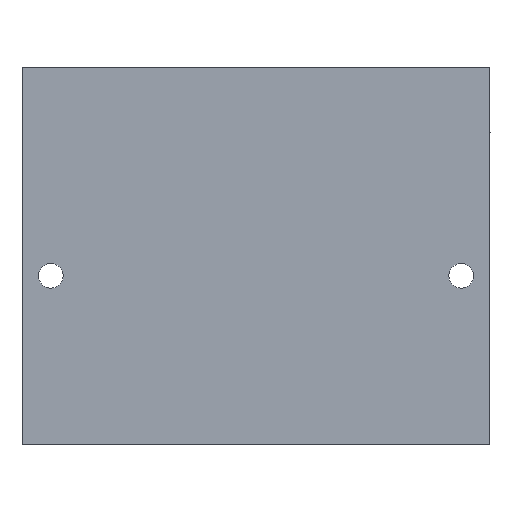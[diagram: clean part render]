
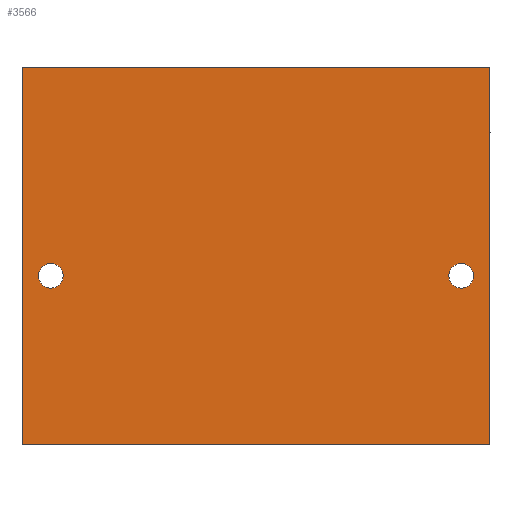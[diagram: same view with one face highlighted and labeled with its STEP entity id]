
A CAD part, front view. The second image highlights one B-rep face of the part: STEP entity #3566.
In plain terms, the highlighted planar face has unit normal (0, -1, 0).
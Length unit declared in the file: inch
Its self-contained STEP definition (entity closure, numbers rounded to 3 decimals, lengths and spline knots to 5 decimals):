
#192 = FACE_BOUND ( 'NONE', #6255, .T. ) ;
#200 = EDGE_CURVE ( 'NONE', #10922, #12041, #6676, .T. ) ;
#289 = EDGE_CURVE ( 'NONE', #4979, #12084, #4509, .T. ) ;
#622 = AXIS2_PLACEMENT_3D ( 'NONE', #7558, #8003, #7991 ) ;
#1094 = VECTOR ( 'NONE', #12341, 39.37008 ) ;
#1285 = CARTESIAN_POINT ( 'NONE',  ( 0.4, 0., -3.072 ) ) ;
#1758 = EDGE_CURVE ( 'NONE', #5048, #8320, #11879, .T. ) ;
#1815 = EDGE_CURVE ( 'NONE', #5163, #3727, #11255, .T. ) ;
#1827 = EDGE_CURVE ( 'NONE', #12084, #4979, #3636, .T. ) ;
#1829 = EDGE_CURVE ( 'NONE', #12041, #10922, #10646, .T. ) ;
#1846 = EDGE_CURVE ( 'NONE', #8320, #3727, #3305, .T. ) ;
#1892 = EDGE_CURVE ( 'NONE', #5048, #5163, #12308, .T. ) ;
#2300 = CARTESIAN_POINT ( 'NONE',  ( 0., 0., 0. ) ) ;
#2854 = AXIS2_PLACEMENT_3D ( 'NONE', #3313, #3308, #3254 ) ;
#2985 = VECTOR ( 'NONE', #8286, 39.37008 ) ;
#3166 = CARTESIAN_POINT ( 'NONE',  ( 6.5, 0., 0. ) ) ;
#3254 = DIRECTION ( 'NONE',  ( 0., 0., 1. ) ) ;
#3305 = LINE ( 'NONE', #7964, #2985 ) ;
#3308 = DIRECTION ( 'NONE',  ( 0., 1., 0. ) ) ;
#3313 = CARTESIAN_POINT ( 'NONE',  ( 6.1, 0., -2.9 ) ) ;
#3414 = FACE_BOUND ( 'NONE', #8503, .T. ) ;
#3566 = ADVANCED_FACE ( 'NONE', ( #192, #3414, #11050 ), #11591, .F. ) ;
#3636 = CIRCLE ( 'NONE', #622, 0.172 ) ;
#3673 = CARTESIAN_POINT ( 'NONE',  ( 6.1, 0., -3.072 ) ) ;
#3727 = VERTEX_POINT ( 'NONE', #9619 ) ;
#4112 = CARTESIAN_POINT ( 'NONE',  ( 6.1, 0., -2.728 ) ) ;
#4509 = CIRCLE ( 'NONE', #2854, 0.172 ) ;
#4666 = CARTESIAN_POINT ( 'NONE',  ( 6.5, 0., 0. ) ) ;
#4723 = DIRECTION ( 'NONE',  ( -1., 0., 0. ) ) ;
#4979 = VERTEX_POINT ( 'NONE', #3673 ) ;
#5048 = VERTEX_POINT ( 'NONE', #3166 ) ;
#5069 = AXIS2_PLACEMENT_3D ( 'NONE', #5413, #5399, #5386 ) ;
#5163 = VERTEX_POINT ( 'NONE', #2300 ) ;
#5386 = DIRECTION ( 'NONE',  ( 0., 0., 1. ) ) ;
#5399 = DIRECTION ( 'NONE',  ( 0., 1., 0. ) ) ;
#5413 = CARTESIAN_POINT ( 'NONE',  ( 0.4, 0., -2.9 ) ) ;
#6001 = VECTOR ( 'NONE', #8195, 39.37008 ) ;
#6255 = EDGE_LOOP ( 'NONE', ( #10433, #10588 ) ) ;
#6676 = CIRCLE ( 'NONE', #5069, 0.172 ) ;
#7063 = VECTOR ( 'NONE', #4723, 39.37008 ) ;
#7558 = CARTESIAN_POINT ( 'NONE',  ( 6.1, 0., -2.9 ) ) ;
#7720 = DIRECTION ( 'NONE',  ( 0., 0., 1. ) ) ;
#7836 = DIRECTION ( 'NONE',  ( 0., 1., 0. ) ) ;
#7893 = CARTESIAN_POINT ( 'NONE',  ( 0.4, 0., -2.9 ) ) ;
#7964 = CARTESIAN_POINT ( 'NONE',  ( 6.5, 0., -5.25 ) ) ;
#7991 = DIRECTION ( 'NONE',  ( 0., 0., 1. ) ) ;
#8003 = DIRECTION ( 'NONE',  ( 0., 1., 0. ) ) ;
#8195 = DIRECTION ( 'NONE',  ( 0., 0., -1. ) ) ;
#8274 = CARTESIAN_POINT ( 'NONE',  ( 0., 0., 0. ) ) ;
#8286 = DIRECTION ( 'NONE',  ( -1., 0., 0. ) ) ;
#8320 = VERTEX_POINT ( 'NONE', #11503 ) ;
#8503 = EDGE_LOOP ( 'NONE', ( #10716, #10891 ) ) ;
#9619 = CARTESIAN_POINT ( 'NONE',  ( 0., 0., -5.25 ) ) ;
#10073 = AXIS2_PLACEMENT_3D ( 'NONE', #11758, #11574, #11544 ) ;
#10433 = ORIENTED_EDGE ( 'NONE', *, *, #1829, .T. ) ;
#10588 = ORIENTED_EDGE ( 'NONE', *, *, #200, .T. ) ;
#10646 = CIRCLE ( 'NONE', #11911, 0.172 ) ;
#10716 = ORIENTED_EDGE ( 'NONE', *, *, #1827, .T. ) ;
#10891 = ORIENTED_EDGE ( 'NONE', *, *, #289, .T. ) ;
#10902 = ORIENTED_EDGE ( 'NONE', *, *, #1815, .T. ) ;
#10922 = VERTEX_POINT ( 'NONE', #1285 ) ;
#11050 = FACE_OUTER_BOUND ( 'NONE', #11201, .T. ) ;
#11176 = ORIENTED_EDGE ( 'NONE', *, *, #1846, .F. ) ;
#11186 = ORIENTED_EDGE ( 'NONE', *, *, #1758, .F. ) ;
#11201 = EDGE_LOOP ( 'NONE', ( #10902, #11176, #11186, #11497 ) ) ;
#11255 = LINE ( 'NONE', #8274, #6001 ) ;
#11497 = ORIENTED_EDGE ( 'NONE', *, *, #1892, .T. ) ;
#11503 = CARTESIAN_POINT ( 'NONE',  ( 6.5, 0., -5.25 ) ) ;
#11544 = DIRECTION ( 'NONE',  ( 0., 0., 1. ) ) ;
#11574 = DIRECTION ( 'NONE',  ( 0., 1., 0. ) ) ;
#11591 = PLANE ( 'NONE',  #10073 ) ;
#11758 = CARTESIAN_POINT ( 'NONE',  ( 6.5, 0., 0. ) ) ;
#11879 = LINE ( 'NONE', #12470, #1094 ) ;
#11911 = AXIS2_PLACEMENT_3D ( 'NONE', #7893, #7836, #7720 ) ;
#12041 = VERTEX_POINT ( 'NONE', #12587 ) ;
#12084 = VERTEX_POINT ( 'NONE', #4112 ) ;
#12308 = LINE ( 'NONE', #4666, #7063 ) ;
#12341 = DIRECTION ( 'NONE',  ( 0., 0., -1. ) ) ;
#12470 = CARTESIAN_POINT ( 'NONE',  ( 6.5, 0., 0. ) ) ;
#12587 = CARTESIAN_POINT ( 'NONE',  ( 0.4, 0., -2.728 ) ) ;
